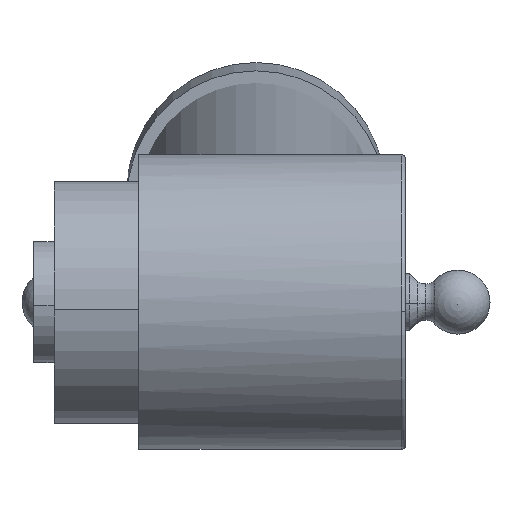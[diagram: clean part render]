
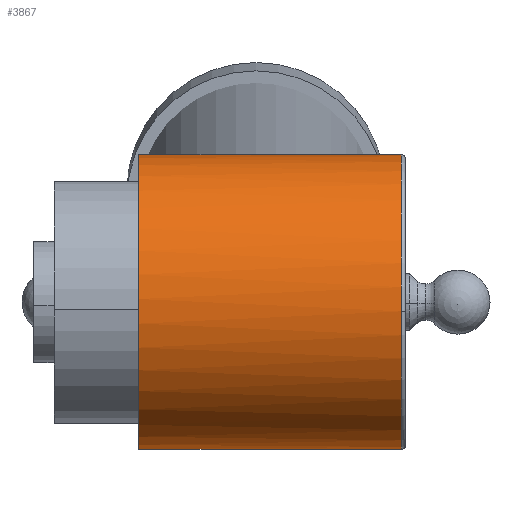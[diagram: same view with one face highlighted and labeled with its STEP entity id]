
A CAD part, left-side view. The second image highlights one B-rep face of the part: STEP entity #3867.
In plain terms, the highlighted cylindrical face has radius 36.5 mm (diameter 73 mm), a partial arc.
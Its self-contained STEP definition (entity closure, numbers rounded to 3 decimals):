
#34 = CARTESIAN_POINT ( 'NONE',  ( 207.467, 15.613, -239.269 ) ) ;
#36 = DIRECTION ( 'NONE',  ( 0.998, 0., 0.063 ) ) ;
#39 = AXIS2_PLACEMENT_3D ( 'NONE', #1875, #3288, #2585 ) ;
#54 = CARTESIAN_POINT ( 'NONE',  ( 205.985, 3.217, -238.994 ) ) ;
#142 = CARTESIAN_POINT ( 'NONE',  ( 212.187, -17.303, -309.41 ) ) ;
#144 = CARTESIAN_POINT ( 'NONE',  ( 212.351, -36., -240.653 ) ) ;
#164 = CARTESIAN_POINT ( 'NONE',  ( 210.428, 3.137, -309.979 ) ) ;
#390 = CARTESIAN_POINT ( 'NONE',  ( 206.12, 5.306, -239.017 ) ) ;
#413 = CARTESIAN_POINT ( 'NONE',  ( 208.001, 18.313, -239.383 ) ) ;
#422 = CIRCLE ( 'NONE', #3310, 36.5 ) ;
#520 = CARTESIAN_POINT ( 'NONE',  ( 210.724, 7.309, -309.889 ) ) ;
#544 = CARTESIAN_POINT ( 'NONE',  ( 214.778, 29., -308.374 ) ) ;
#715 = CARTESIAN_POINT ( 'NONE',  ( 206.464, -9.154, -239.075 ) ) ;
#738 = CARTESIAN_POINT ( 'NONE',  ( 209.578, -25.339, -239.772 ) ) ;
#740 = CARTESIAN_POINT ( 'NONE',  ( 200., 0., -275. ) ) ;
#756 = EDGE_LOOP ( 'NONE', ( #1320, #3500, #1897, #1009, #2753 ) ) ;
#762 = CARTESIAN_POINT ( 'NONE',  ( 206.812, 11.523, -239.141 ) ) ;
#807 = CARTESIAN_POINT ( 'NONE',  ( 210.499, 29., -240.042 ) ) ;
#846 = CARTESIAN_POINT ( 'NONE',  ( 200., 29., -275. ) ) ;
#891 = VERTEX_POINT ( 'NONE', #1358 ) ;
#984 = CARTESIAN_POINT ( 'NONE',  ( 214.132, 26.337, -308.661 ) ) ;
#1001 = FACE_OUTER_BOUND ( 'NONE', #756, .T. ) ;
#1009 = ORIENTED_EDGE ( 'NONE', *, *, #2194, .T. ) ;
#1069 = CARTESIAN_POINT ( 'NONE',  ( 209.823, 26.345, -239.84 ) ) ;
#1090 = CARTESIAN_POINT ( 'NONE',  ( 211.626, -33.35, -240.392 ) ) ;
#1138 = CARTESIAN_POINT ( 'NONE',  ( 216.54, -36., -307.537 ) ) ;
#1209 = CARTESIAN_POINT ( 'NONE',  ( 213.901, -25.35, -308.756 ) ) ;
#1238 = CARTESIAN_POINT ( 'NONE',  ( 213.512, 23.663, -308.912 ) ) ;
#1320 = ORIENTED_EDGE ( 'NONE', *, *, #2778, .F. ) ;
#1351 = CARTESIAN_POINT ( 'NONE',  ( 211.858, 15.567, -309.523 ) ) ;
#1354 = EDGE_CURVE ( 'NONE', #2288, #891, #2266, .T. ) ;
#1358 = CARTESIAN_POINT ( 'NONE',  ( 163.571, -36., -277.282 ) ) ;
#1477 = CARTESIAN_POINT ( 'NONE',  ( 209.179, 23.679, -239.668 ) ) ;
#1498 = CARTESIAN_POINT ( 'NONE',  ( 210.499, 29., -240.042 ) ) ;
#1576 = CARTESIAN_POINT ( 'NONE',  ( 210.61, -6.481, -309.924 ) ) ;
#1685 = EDGE_CURVE ( 'NONE', #3399, #3983, #2021, .T. ) ;
#1781 = CARTESIAN_POINT ( 'NONE',  ( 212.351, -36., -240.653 ) ) ;
#1801 = CARTESIAN_POINT ( 'NONE',  ( 206.175, 6.003, -239.026 ) ) ;
#1825 = CARTESIAN_POINT ( 'NONE',  ( 207.792, -17.276, -239.337 ) ) ;
#1875 = CARTESIAN_POINT ( 'NONE',  ( 200., -36., -275. ) ) ;
#1897 = ORIENTED_EDGE ( 'NONE', *, *, #1354, .T. ) ;
#1901 = DIRECTION ( 'NONE',  ( -0.998, 0., -0.063 ) ) ;
#1907 = CARTESIAN_POINT ( 'NONE',  ( 211.224, 11.459, -309.732 ) ) ;
#1914 = DIRECTION ( 'NONE',  ( 0., 1., 0. ) ) ;
#1934 = CARTESIAN_POINT ( 'NONE',  ( 210.399, -2.375, -309.987 ) ) ;
#2021 = B_SPLINE_CURVE_WITH_KNOTS ( 'NONE', 3,
 ( #1781, #1090, #2515, #738, #4242, #1825, #3214, #715, #3573, #4322, #2153, #3941, #54, #390, #1801, #3635, #2918, #3614, #762, #34, #413, #1477, #1069, #1498 ),
 .UNSPECIFIED., .F., .F.,
 ( 4, 2, 2, 2, 2, 2, 2, 2, 2, 2, 2, 4 ),
 ( 0.067, 0.075, 0.083, 0.092, 0.1, 0.104, 0.108, 0.11, 0.112, 0.116, 0.124, 0.133 ),
 .UNSPECIFIED. ) ;
#2153 = CARTESIAN_POINT ( 'NONE',  ( 205.917, -0.935, -238.983 ) ) ;
#2194 = EDGE_CURVE ( 'NONE', #891, #3399, #422, .T. ) ;
#2211 = CIRCLE ( 'NONE', #2592, 36.5 ) ;
#2266 = CIRCLE ( 'NONE', #39, 36.5 ) ;
#2288 = VERTEX_POINT ( 'NONE', #1138 ) ;
#2417 = CYLINDRICAL_SURFACE ( 'NONE', #4517, 36.5 ) ;
#2439 = CARTESIAN_POINT ( 'NONE',  ( 214.778, 29., -308.374 ) ) ;
#2515 = CARTESIAN_POINT ( 'NONE',  ( 210.921, -30.689, -240.165 ) ) ;
#2585 = DIRECTION ( 'NONE',  ( -0.998, 0., -0.063 ) ) ;
#2592 = AXIS2_PLACEMENT_3D ( 'NONE', #846, #1914, #2623 ) ;
#2623 = DIRECTION ( 'NONE',  ( -0.998, 0., -0.063 ) ) ;
#2665 = CARTESIAN_POINT ( 'NONE',  ( 210.902, -9.199, -309.836 ) ) ;
#2753 = ORIENTED_EDGE ( 'NONE', *, *, #1685, .T. ) ;
#2776 = CARTESIAN_POINT ( 'NONE',  ( 210.599, 5.912, -309.927 ) ) ;
#2778 = EDGE_CURVE ( 'NONE', #4190, #3983, #2211, .T. ) ;
#2793 = CARTESIAN_POINT ( 'NONE',  ( 215.183, -30.694, -308.199 ) ) ;
#2903 = B_SPLINE_CURVE_WITH_KNOTS ( 'NONE', 3,
 ( #544, #984, #1238, #3488, #1351, #1907, #3111, #520, #2776, #164, #3372, #3091, #1934, #1576, #2665, #2996, #142, #4384, #1209, #2793, #3717, #4175 ),
 .UNSPECIFIED., .F., .F.,
 ( 4, 2, 2, 2, 2, 2, 2, 2, 2, 2, 4 ),
 ( 0.325, 0.333, 0.341, 0.345, 0.349, 0.354, 0.358, 0.366, 0.374, 0.383, 0.391 ),
 .UNSPECIFIED. ) ;
#2918 = CARTESIAN_POINT ( 'NONE',  ( 206.376, 8.084, -239.061 ) ) ;
#2985 = EDGE_CURVE ( 'NONE', #4190, #2288, #2903, .T. ) ;
#2996 = CARTESIAN_POINT ( 'NONE',  ( 211.691, -14.61, -309.579 ) ) ;
#3091 = CARTESIAN_POINT ( 'NONE',  ( 210.366, -1.002, -309.997 ) ) ;
#3111 = CARTESIAN_POINT ( 'NONE',  ( 211.036, 10.082, -309.792 ) ) ;
#3198 = DIRECTION ( 'NONE',  ( 0., -1., 0. ) ) ;
#3214 = CARTESIAN_POINT ( 'NONE',  ( 207.279, -14.577, -239.231 ) ) ;
#3288 = DIRECTION ( 'NONE',  ( 0., 1., 0. ) ) ;
#3310 = AXIS2_PLACEMENT_3D ( 'NONE', #3367, #3644, #1901 ) ;
#3367 = CARTESIAN_POINT ( 'NONE',  ( 200., -36., -275. ) ) ;
#3372 = CARTESIAN_POINT ( 'NONE',  ( 210.38, 1.754, -309.993 ) ) ;
#3399 = VERTEX_POINT ( 'NONE', #144 ) ;
#3488 = CARTESIAN_POINT ( 'NONE',  ( 212.376, 18.278, -309.343 ) ) ;
#3500 = ORIENTED_EDGE ( 'NONE', *, *, #2985, .T. ) ;
#3573 = CARTESIAN_POINT ( 'NONE',  ( 206.164, -6.429, -239.024 ) ) ;
#3614 = CARTESIAN_POINT ( 'NONE',  ( 206.618, 10.152, -239.105 ) ) ;
#3635 = CARTESIAN_POINT ( 'NONE',  ( 206.303, 7.392, -239.048 ) ) ;
#3644 = DIRECTION ( 'NONE',  ( 0., 1., 0. ) ) ;
#3717 = CARTESIAN_POINT ( 'NONE',  ( 215.854, -33.353, -307.886 ) ) ;
#3867 = ADVANCED_FACE ( 'NONE', ( #1001 ), #2417, .T. ) ;
#3941 = CARTESIAN_POINT ( 'NONE',  ( 205.935, 1.83, -238.986 ) ) ;
#3983 = VERTEX_POINT ( 'NONE', #807 ) ;
#4175 = CARTESIAN_POINT ( 'NONE',  ( 216.54, -36., -307.537 ) ) ;
#4190 = VERTEX_POINT ( 'NONE', #2439 ) ;
#4242 = CARTESIAN_POINT ( 'NONE',  ( 208.942, -22.656, -239.607 ) ) ;
#4322 = CARTESIAN_POINT ( 'NONE',  ( 205.95, -2.312, -238.988 ) ) ;
#4384 = CARTESIAN_POINT ( 'NONE',  ( 213.292, -22.673, -308.999 ) ) ;
#4517 = AXIS2_PLACEMENT_3D ( 'NONE', #740, #3198, #36 ) ;
